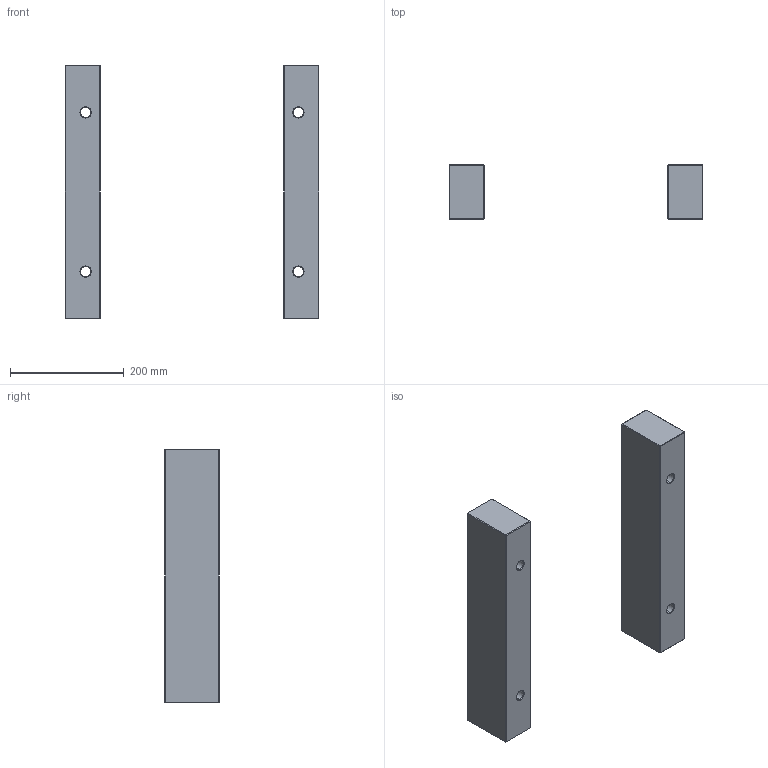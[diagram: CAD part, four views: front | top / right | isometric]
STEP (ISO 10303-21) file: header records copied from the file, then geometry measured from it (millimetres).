
FILE_DESCRIPTION (( 'STEP AP214' ), '1' );
FILE_NAME ('ESP-446X446x96.STEP', '2020-04-14T08:55:08', ( 'August' ), ( '' ), 'SwSTEP 2.0', 'SolidWorks 2018', '' );
FILE_SCHEMA (( 'AUTOMOTIVE_DESIGN' ));
Length unit declared in the file: millimetre
Products named in the file (1): ESP-446X446x96
Bounding box: 446 x 96 x 446 mm (x, y, z)
Volume: 5208828 mm3; surface area: 322267.8 mm2
Topology: 2 solids, 2 shells, 76 faces, 152 edges, 80 vertices
Faces by surface type: plane 52, cone 16, cylinder 8
Entity records: 1935 total; most frequent: DIRECTION 338, CARTESIAN_POINT 309, ORIENTED_EDGE 304, EDGE_CURVE 152, VECTOR 120, LINE 120, AXIS2_PLACEMENT_3D 109, EDGE_LOOP 84
